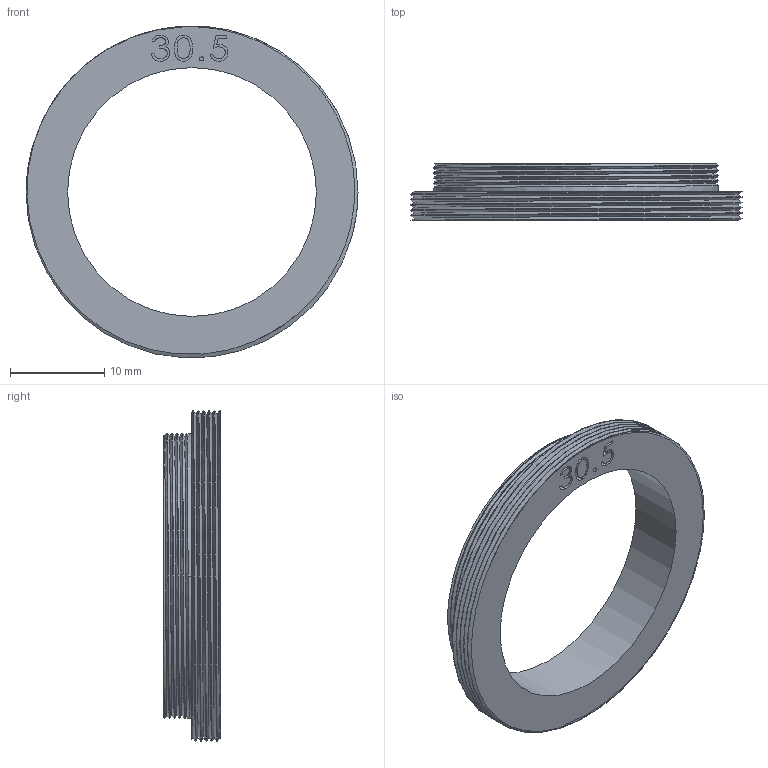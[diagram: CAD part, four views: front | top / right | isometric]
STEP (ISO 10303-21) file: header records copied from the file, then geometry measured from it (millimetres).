
FILE_DESCRIPTION (( 'STEP AP203' ), '1' );
FILE_NAME ('TA30.5-35.5.STEP', '2020-08-06T17:27:15', ( '' ), ( '' ), 'SwSTEP 2.0', 'SolidWorks 2018', '' );
FILE_SCHEMA (( 'CONFIG_CONTROL_DESIGN' ));
Length unit declared in the file: inch
Products named in the file (1): TA30.5-35.5
Bounding box: 35.31 x 6.02 x 35.27 mm (x, y, z)
Volume: 1701.3 mm3; surface area: 2394.2 mm2
Topology: 1 solids, 1 shells, 81 faces, 219 edges, 146 vertices
Faces by surface type: bspline 39, cylinder 24, plane 18
Entity records: 6269 total; most frequent: CARTESIAN_POINT 4538, ORIENTED_EDGE 438, EDGE_CURVE 219, DIRECTION 194, VERTEX_POINT 146, EDGE_LOOP 89, VECTOR 88, LINE 88
